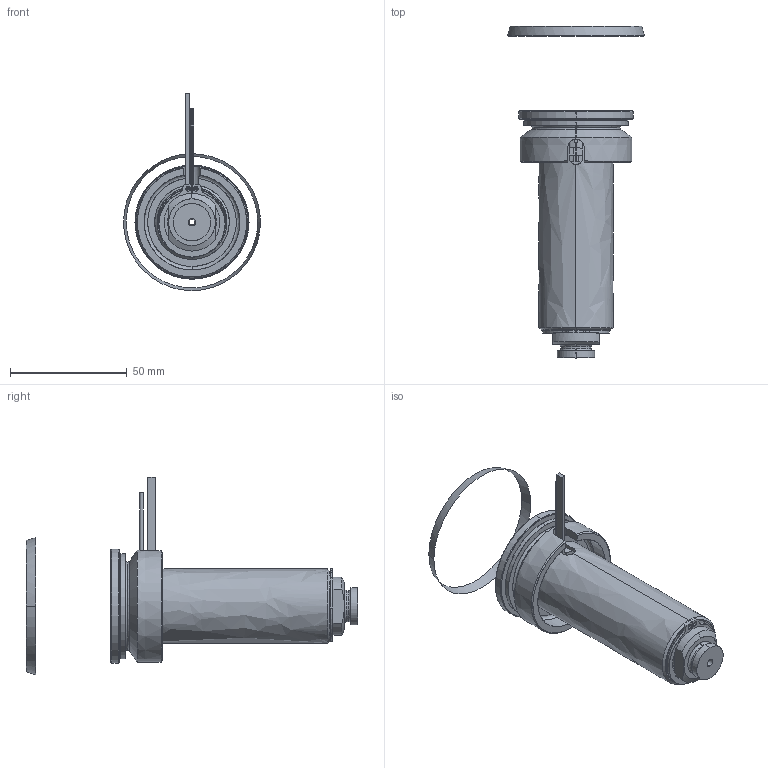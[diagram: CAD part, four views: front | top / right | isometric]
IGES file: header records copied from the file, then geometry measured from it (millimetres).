
Start section: SolidWorks IGES file using analytic representation for surfaces
Global section: file name: C:\Documents and Settings\ws-20\Desktop\TEMPORANEA\UGBE5002-S-A-3 [Ød-2.5 P-0 ØC-12].IGS; native system: SolidWorks 2012; preprocessor: SolidWorks 2012; author: ws-20; date: 120306.145207; units: millimetre
Bounding box: 58.79 x 142.44 x 84.69 mm (x, y, z)
Surface area: 41415.1 mm2 (no closed solid volume)
Topology: 0 solids, 0 shells, 113 faces, 2130 edges, 2130 vertices
Faces by surface type: revolution 69, bspline 44
